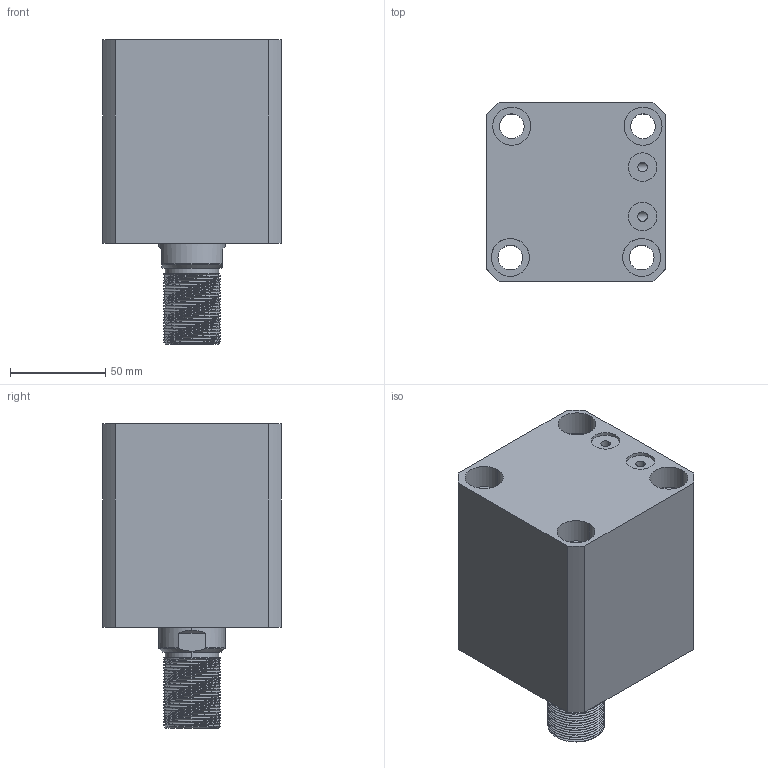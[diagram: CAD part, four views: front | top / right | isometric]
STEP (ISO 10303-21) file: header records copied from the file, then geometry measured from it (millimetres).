
FILE_DESCRIPTION (( 'STEP AP214' ), '1' );
FILE_NAME ('chtb-sdmb63x40w_asm.STEP', '2018-05-18T11:27:48', ( 'Windows' ), ( 'Microsoft' ), 'SwSTEP 2.0', 'SolidWorks 2015', '' );
FILE_SCHEMA (( 'AUTOMOTIVE_DESIGN' ));
Length unit declared in the file: millimetre
Products named in the file (4): CHTB-SDMB63X40NBT; CHTB63X40WHSG; CHTB-63QG; chtb-sdmb63x40w_asm
Assembly tree (3 placements, depth 2):
  chtb-sdmb63x40w_asm
    CHTB-63QG
    CHTB63X40WHSG
    CHTB-SDMB63X40NBT
Bounding box: 94 x 94 x 160 mm (x, y, z)
Volume: 811831.1 mm3; surface area: 141621 mm2
Topology: 3 solids, 3 shells, 218 faces, 628 edges, 427 vertices
Faces by surface type: cylinder 156, plane 33, bspline 14, cone 9, torus 6
Entity records: 22278 total; most frequent: CARTESIAN_POINT 17042, ORIENTED_EDGE 1248, DIRECTION 869, EDGE_CURVE 624, VERTEX_POINT 427, AXIS2_PLACEMENT_3D 339, EDGE_LOOP 251, ADVANCED_FACE 218
